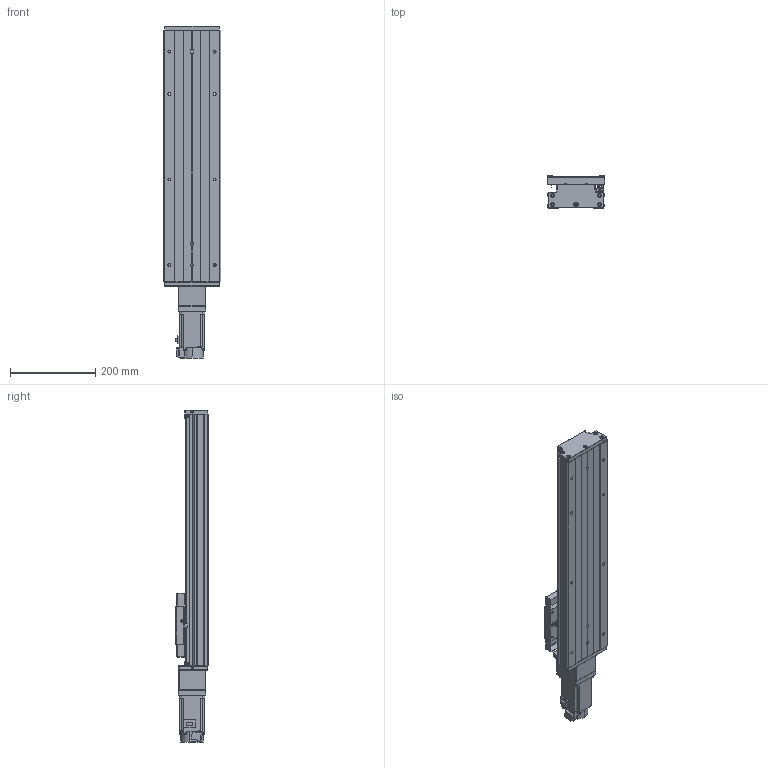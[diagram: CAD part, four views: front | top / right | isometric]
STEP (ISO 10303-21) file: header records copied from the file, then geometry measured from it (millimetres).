
FILE_DESCRIPTION (( 'STEP AP203' ), '1' );
FILE_NAME ('CTH130-400-BC-M40-C4.step', '2023-06-30T02:33:00', ( '微软用户' ), ( '微软中国' ), 'SwSTEP 2.0', 'SolidWorks 2020', '' );
FILE_SCHEMA (( 'CONFIG_CONTROL_DESIGN' ));
Length unit declared in the file: millimetre
Products named in the file (21): GBT 70.2-M3¡Á5_M3¡Á6; CTH130-400-BC-M40-C4; GTH14-001_400; CTHA60-017; す晦芛蹟隊 M3℅5; CTH130-002_GTH14-002; EE_SX911P_R; CTHA86-006-1_M40; GB T308.1-2013-6.35; CTHA60-016; CTHA86-013; GTH14-004; GBT 70.1-M3℅5; CTHA86-027-1; GTH14-005; GBT77-2000 M3×3; GBT 70.3-M3℅8; GB1155-6X6; CTH130-031; HG-KN43J-S100; GBT70.1 M5℅16
Assembly tree (59 placements, depth 2):
  CTH130-400-BC-M40-C4
    GTH14-001_400
    CTH130-002_GTH14-002
    GB T308.1-2013-6.35  x2
    GTH14-004
    GTH14-005
    GB1155-6X6  x2
    GBT70.1 M5℅16  x10
    CTHA60-017  x3
    EE_SX911P_R  x3
    CTHA60-016  x2
    GBT 70.1-M3℅5  x6
    GBT77-2000 M3×3  x6
    CTH130-031
    GBT 70.2-M3¡Á5_M3¡Á6  x8
    す晦芛蹟隊 M3℅5  x6
    CTHA86-006-1_M40
    CTHA86-013
    CTHA86-027-1
    GBT 70.3-M3℅8  x2
    HG-KN43J-S100
Bounding box: 135 x 76 x 778.7 mm (x, y, z)
Volume: 3765294.9 mm3; surface area: 624141.6 mm2
Topology: 62 solids, 62 shells, 2370 faces, 5657 edges, 3503 vertices
Faces by surface type: plane 1301, cylinder 618, cone 287, torus 120, sphere 24, bspline 20
Entity records: 43372 total; most frequent: CARTESIAN_POINT 9755, DIRECTION 6271, ORIENTED_EDGE 6214, EDGE_CURVE 3107, AXIS2_PLACEMENT_3D 2115, VECTOR 2041, LINE 2041, VERTEX_POINT 1963
